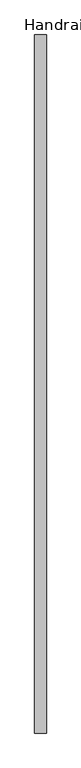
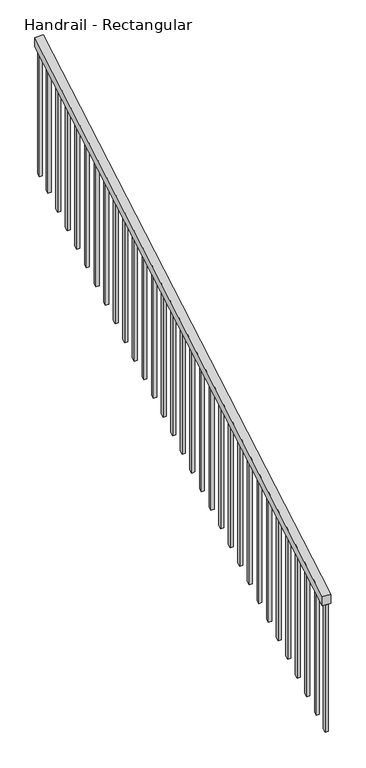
"""IFC4 building model written with IfcOpenShell, lengths in millimetres: railing geometry, Handrail - Rectangular."""

from ifc_helpers import new_model, si_unit, frame, origin, place, context, project, spatial, polyline, outline, extrude, source, transform, mapped, element, save


def handrail_rectangular_86ff91ed(model_context):
    return source(origin(), model_context, "Body", "SweptSolid", [
        extrude(outline(polyline([(26551.8305304, 855.6573435), (26551.8305304, 914.4), (29599.8305304, 2684.2064516), (29599.8305304, 2625.4637952), (26551.8305304, 855.6573435)])), frame((-6949.6924856, 0.0, 0.0), z_axis=(1.0, 0.0, 0.0), x_axis=(0.0, 1.0, 0.0)), (0.0, 0.0, 1.0), 50.8),
        extrude(outline(polyline([(29488.7055304, 2560.9396016), (29507.7555304, 2572.0008919), (29507.7555304, 1749.1550375), (29488.7055304, 1738.0937472), (29488.7055304, 2560.9396016)])), frame((-6933.8174856, 0.0, 0.0), z_axis=(1.0, 0.0, 0.0), x_axis=(0.0, 1.0, 0.0)), (0.0, 0.0, 1.0), 19.05),
        extrude(outline(polyline([(29387.1055304, 2501.9460532), (29406.1555304, 2513.0073435), (29406.1555304, 1690.1614891), (29387.1055304, 1679.1001988), (29387.1055304, 2501.9460532)])), frame((-6933.8174856, 0.0, 0.0), z_axis=(1.0, 0.0, 0.0), x_axis=(0.0, 1.0, 0.0)), (0.0, 0.0, 1.0), 19.05),
        extrude(outline(polyline([(29285.5055304, 2442.9525048), (29304.5555304, 2454.0137952), (29304.5555304, 1631.1679408), (29285.5055304, 1620.1066504), (29285.5055304, 2442.9525048)])), frame((-6933.8174856, 0.0, 0.0), z_axis=(1.0, 0.0, 0.0), x_axis=(0.0, 1.0, 0.0)), (0.0, 0.0, 1.0), 19.05),
        extrude(outline(polyline([(29183.9055304, 2383.9589564), (29202.9555304, 2395.0202468), (29202.9555304, 1572.1743924), (29183.9055304, 1561.113102), (29183.9055304, 2383.9589564)])), frame((-6933.8174856, 0.0, 0.0), z_axis=(1.0, 0.0, 0.0), x_axis=(0.0, 1.0, 0.0)), (0.0, 0.0, 1.0), 19.05),
        extrude(outline(polyline([(29082.3055304, 2324.9654081), (29101.3555304, 2336.0266984), (29101.3555304, 1513.180844), (29082.3055304, 1502.1195537), (29082.3055304, 2324.9654081)])), frame((-6933.8174856, 0.0, 0.0), z_axis=(1.0, 0.0, 0.0), x_axis=(0.0, 1.0, 0.0)), (0.0, 0.0, 1.0), 19.05),
        extrude(outline(polyline([(28980.7055304, 2265.9718597), (28999.7555304, 2277.03315), (28999.7555304, 1454.1872956), (28980.7055304, 1443.1260053), (28980.7055304, 2265.9718597)])), frame((-6933.8174856, 0.0, 0.0), z_axis=(1.0, 0.0, 0.0), x_axis=(0.0, 1.0, 0.0)), (0.0, 0.0, 1.0), 19.05),
        extrude(outline(polyline([(28879.1055304, 2206.9783113), (28898.1555304, 2218.0396016), (28898.1555304, 1395.1937472), (28879.1055304, 1384.1324569), (28879.1055304, 2206.9783113)])), frame((-6933.8174856, 0.0, 0.0), z_axis=(1.0, 0.0, 0.0), x_axis=(0.0, 1.0, 0.0)), (0.0, 0.0, 1.0), 19.05),
        extrude(outline(polyline([(28777.5055304, 2147.9847629), (28796.5555304, 2159.0460532), (28796.5555304, 1336.2001988), (28777.5055304, 1325.1389085), (28777.5055304, 2147.9847629)])), frame((-6933.8174856, 0.0, 0.0), z_axis=(1.0, 0.0, 0.0), x_axis=(0.0, 1.0, 0.0)), (0.0, 0.0, 1.0), 19.05),
        extrude(outline(polyline([(28675.9055304, 2088.9912145), (28694.9555304, 2100.0525048), (28694.9555304, 1277.2066504), (28675.9055304, 1266.1453601), (28675.9055304, 2088.9912145)])), frame((-6933.8174856, 0.0, 0.0), z_axis=(1.0, 0.0, 0.0), x_axis=(0.0, 1.0, 0.0)), (0.0, 0.0, 1.0), 19.05),
        extrude(outline(polyline([(28574.3055304, 2029.9976661), (28593.3555304, 2041.0589564), (28593.3555304, 1218.213102), (28574.3055304, 1207.1518117), (28574.3055304, 2029.9976661)])), frame((-6933.8174856, 0.0, 0.0), z_axis=(1.0, 0.0, 0.0), x_axis=(0.0, 1.0, 0.0)), (0.0, 0.0, 1.0), 19.05),
        extrude(outline(polyline([(28472.7055304, 1971.0041177), (28491.7555304, 1982.0654081), (28491.7555304, 1159.2195537), (28472.7055304, 1148.1582633), (28472.7055304, 1971.0041177)])), frame((-6933.8174856, 0.0, 0.0), z_axis=(1.0, 0.0, 0.0), x_axis=(0.0, 1.0, 0.0)), (0.0, 0.0, 1.0), 19.05),
        extrude(outline(polyline([(28371.1055304, 1912.0105693), (28390.1555304, 1923.0718597), (28390.1555304, 1100.2260053), (28371.1055304, 1089.164715), (28371.1055304, 1912.0105693)])), frame((-6933.8174856, 0.0, 0.0), z_axis=(1.0, 0.0, 0.0), x_axis=(0.0, 1.0, 0.0)), (0.0, 0.0, 1.0), 19.05),
        extrude(outline(polyline([(28269.5055304, 1853.017021), (28288.5555304, 1864.0783113), (28288.5555304, 1041.2324569), (28269.5055304, 1030.1711666), (28269.5055304, 1853.017021)])), frame((-6933.8174856, 0.0, 0.0), z_axis=(1.0, 0.0, 0.0), x_axis=(0.0, 1.0, 0.0)), (0.0, 0.0, 1.0), 19.05),
        extrude(outline(polyline([(28167.9055304, 1794.0234726), (28186.9555304, 1805.0847629), (28186.9555304, 982.2389085), (28167.9055304, 971.1776182), (28167.9055304, 1794.0234726)])), frame((-6933.8174856, 0.0, 0.0), z_axis=(1.0, 0.0, 0.0), x_axis=(0.0, 1.0, 0.0)), (0.0, 0.0, 1.0), 19.05),
        extrude(outline(polyline([(28066.3055304, 1735.0299242), (28085.3555304, 1746.0912145), (28085.3555304, 923.2453601), (28066.3055304, 912.1840698), (28066.3055304, 1735.0299242)])), frame((-6933.8174856, 0.0, 0.0), z_axis=(1.0, 0.0, 0.0), x_axis=(0.0, 1.0, 0.0)), (0.0, 0.0, 1.0), 19.05),
        extrude(outline(polyline([(27964.7055304, 1676.0363758), (27983.7555304, 1687.0976661), (27983.7555304, 864.2518117), (27964.7055304, 853.1905214), (27964.7055304, 1676.0363758)])), frame((-6933.8174856, 0.0, 0.0), z_axis=(1.0, 0.0, 0.0), x_axis=(0.0, 1.0, 0.0)), (0.0, 0.0, 1.0), 19.05),
        extrude(outline(polyline([(27863.1055304, 1617.0428274), (27882.1555304, 1628.1041177), (27882.1555304, 805.2582633), (27863.1055304, 794.196973), (27863.1055304, 1617.0428274)])), frame((-6933.8174856, 0.0, 0.0), z_axis=(1.0, 0.0, 0.0), x_axis=(0.0, 1.0, 0.0)), (0.0, 0.0, 1.0), 19.05),
        extrude(outline(polyline([(27761.5055304, 1558.049279), (27780.5555304, 1569.1105693), (27780.5555304, 746.264715), (27761.5055304, 735.2034246), (27761.5055304, 1558.049279)])), frame((-6933.8174856, 0.0, 0.0), z_axis=(1.0, 0.0, 0.0), x_axis=(0.0, 1.0, 0.0)), (0.0, 0.0, 1.0), 19.05),
        extrude(outline(polyline([(27659.9055304, 1499.0557306), (27678.9555304, 1510.117021), (27678.9555304, 687.2711666), (27659.9055304, 676.2098762), (27659.9055304, 1499.0557306)])), frame((-6933.8174856, 0.0, 0.0), z_axis=(1.0, 0.0, 0.0), x_axis=(0.0, 1.0, 0.0)), (0.0, 0.0, 1.0), 19.05),
        extrude(outline(polyline([(27558.3055304, 1440.0621823), (27577.3555304, 1451.1234726), (27577.3555304, 628.2776182), (27558.3055304, 617.2163279), (27558.3055304, 1440.0621823)])), frame((-6933.8174856, 0.0, 0.0), z_axis=(1.0, 0.0, 0.0), x_axis=(0.0, 1.0, 0.0)), (0.0, 0.0, 1.0), 19.05),
        extrude(outline(polyline([(27456.7055304, 1381.0686339), (27475.7555304, 1392.1299242), (27475.7555304, 569.2840698), (27456.7055304, 558.2227795), (27456.7055304, 1381.0686339)])), frame((-6933.8174856, 0.0, 0.0), z_axis=(1.0, 0.0, 0.0), x_axis=(0.0, 1.0, 0.0)), (0.0, 0.0, 1.0), 19.05),
        extrude(outline(polyline([(27355.1055304, 1322.0750855), (27374.1555304, 1333.1363758), (27374.1555304, 510.2905214), (27355.1055304, 499.2292311), (27355.1055304, 1322.0750855)])), frame((-6933.8174856, 0.0, 0.0), z_axis=(1.0, 0.0, 0.0), x_axis=(0.0, 1.0, 0.0)), (0.0, 0.0, 1.0), 19.05),
        extrude(outline(polyline([(27253.5055304, 1263.0815371), (27272.5555304, 1274.1428274), (27272.5555304, 451.296973), (27253.5055304, 440.2356827), (27253.5055304, 1263.0815371)])), frame((-6933.8174856, 0.0, 0.0), z_axis=(1.0, 0.0, 0.0), x_axis=(0.0, 1.0, 0.0)), (0.0, 0.0, 1.0), 19.05),
        extrude(outline(polyline([(27151.9055304, 1204.0879887), (27170.9555304, 1215.149279), (27170.9555304, 392.3034246), (27151.9055304, 381.2421343), (27151.9055304, 1204.0879887)])), frame((-6933.8174856, 0.0, 0.0), z_axis=(1.0, 0.0, 0.0), x_axis=(0.0, 1.0, 0.0)), (0.0, 0.0, 1.0), 19.05),
        extrude(outline(polyline([(27050.3055304, 1145.0944403), (27069.3555304, 1156.1557306), (27069.3555304, 333.3098762), (27050.3055304, 322.2485859), (27050.3055304, 1145.0944403)])), frame((-6933.8174856, 0.0, 0.0), z_axis=(1.0, 0.0, 0.0), x_axis=(0.0, 1.0, 0.0)), (0.0, 0.0, 1.0), 19.05),
        extrude(outline(polyline([(26948.7055304, 1086.1008919), (26967.7555304, 1097.1621823), (26967.7555304, 274.3163279), (26948.7055304, 263.2550375), (26948.7055304, 1086.1008919)])), frame((-6933.8174856, 0.0, 0.0), z_axis=(1.0, 0.0, 0.0), x_axis=(0.0, 1.0, 0.0)), (0.0, 0.0, 1.0), 19.05),
        extrude(outline(polyline([(26847.1055304, 1027.1073435), (26866.1555304, 1038.1686339), (26866.1555304, 215.3227795), (26847.1055304, 204.2614891), (26847.1055304, 1027.1073435)])), frame((-6933.8174856, 0.0, 0.0), z_axis=(1.0, 0.0, 0.0), x_axis=(0.0, 1.0, 0.0)), (0.0, 0.0, 1.0), 19.05),
        extrude(outline(polyline([(26745.5055304, 968.1137952), (26764.5555304, 979.1750855), (26764.5555304, 156.3292311), (26745.5055304, 145.2679408), (26745.5055304, 968.1137952)])), frame((-6933.8174856, 0.0, 0.0), z_axis=(1.0, 0.0, 0.0), x_axis=(0.0, 1.0, 0.0)), (0.0, 0.0, 1.0), 19.05),
        extrude(outline(polyline([(26643.9055304, 909.1202468), (26662.9555304, 920.1815371), (26662.9555304, 97.3356827), (26643.9055304, 86.2743924), (26643.9055304, 909.1202468)])), frame((-6933.8174856, 0.0, 0.0), z_axis=(1.0, 0.0, 0.0), x_axis=(0.0, 1.0, 0.0)), (0.0, 0.0, 1.0), 19.05),
        extrude(outline(polyline([(29580.7805304, 2614.4025048), (29599.8305304, 2625.4637952), (29599.8305304, 1802.6179408), (29580.7805304, 1791.5566504), (29580.7805304, 2614.4025048)])), frame((-6933.8174856, 0.0, 0.0), z_axis=(1.0, 0.0, 0.0), x_axis=(0.0, 1.0, 0.0)), (0.0, 0.0, 1.0), 19.05),
        extrude(outline(polyline([(26551.8305304, 855.6573435), (26570.8805304, 866.7186339), (26570.8805304, 43.8727795), (26551.8305304, 32.8114891), (26551.8305304, 855.6573435)])), frame((-6933.8174856, 0.0, 0.0), z_axis=(1.0, 0.0, 0.0), x_axis=(0.0, 1.0, 0.0)), (0.0, 0.0, 1.0), 19.05),
    ])


if __name__ == "__main__":
    model = new_model("IFC4")
    model_context = context("Model", 3, world=origin())
    ifc_project = project(units=[si_unit("LENGTHUNIT", "METRE", prefix="MILLI")], contexts=[model_context])
    site = spatial("IfcSite", under=ifc_project)
    building = spatial("IfcBuilding", under=site)
    placement = place(None, origin())
    handrail_rectangular_shape = handrail_rectangular_86ff91ed(model_context)
    element("IfcRailing", 1, ObjectType="Handrail - Rectangular", at=placement, inside=building, context=model_context, shape_type="MappedRepresentation", body=[
        mapped(handrail_rectangular_shape, transform((0.0, 0.0, 0.0), x_axis=(1.0, 0.0, 0.0), y_axis=(0.0, 1.0, 0.0), z_axis=(0.0, 0.0, 1.0))),
    ])
    save(model, "model.ifc")
